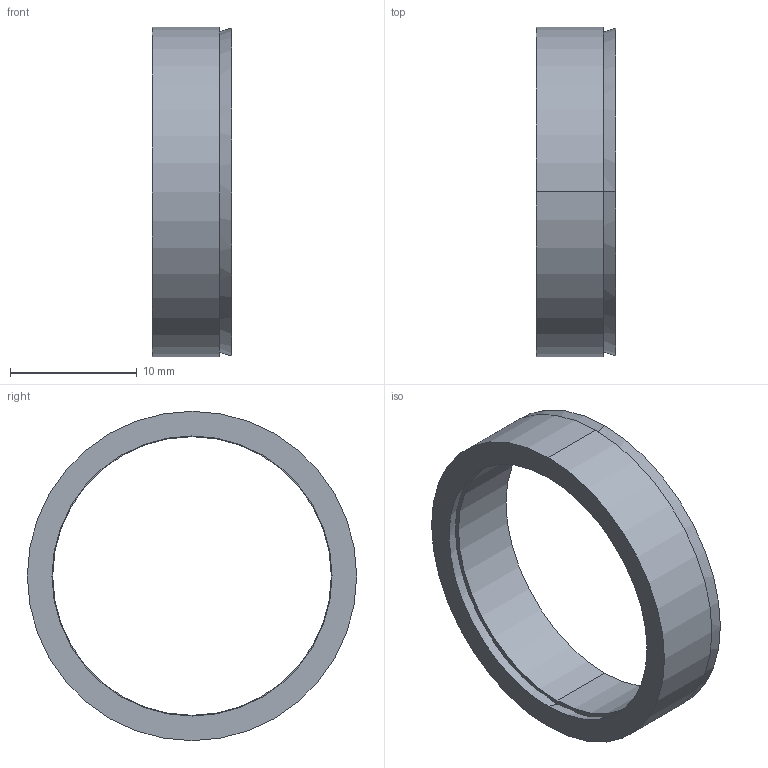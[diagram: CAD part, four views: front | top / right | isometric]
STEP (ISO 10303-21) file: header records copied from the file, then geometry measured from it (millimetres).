
FILE_DESCRIPTION (( 'STEP AP203' ), '1' );
FILE_NAME ('R-22-26.STEP', '2017-11-06T02:09:10', ( 'MYCOM' ), ( '' ), 'SwSTEP 2.0', 'SolidWorks 2015', '' );
FILE_SCHEMA (( 'CONFIG_CONTROL_DESIGN' ));
Length unit declared in the file: millimetre
Products named in the file (1): R-22-26
Bounding box: 6.3 x 26 x 26 mm (x, y, z)
Surface area: 1980.5 mm2 (no closed solid volume)
Topology: 0 solids, 2 shells, 12 faces, 24 edges, 16 vertices
Faces by surface type: cone 4, cylinder 4, plane 4
Entity records: 406 total; most frequent: DIRECTION 66, CARTESIAN_POINT 53, ORIENTED_EDGE 48, AXIS2_PLACEMENT_3D 29, EDGE_CURVE 24, VERTEX_POINT 16, EDGE_LOOP 16, CIRCLE 16
